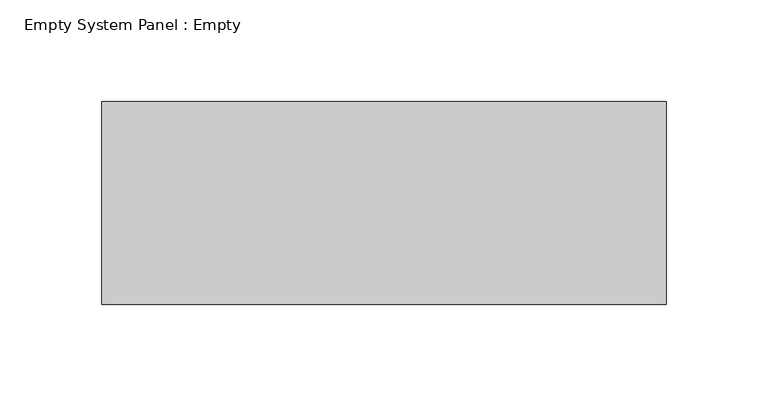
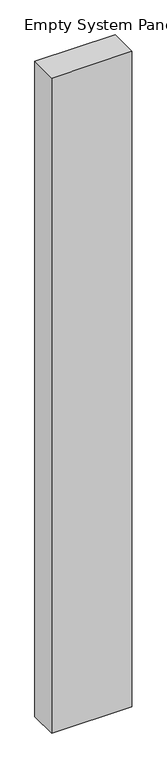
"""IFC4 building model written with IfcOpenShell, lengths in millimetres: plate geometry, Empty System Panel : Empty."""

from ifc_helpers import new_model, si_unit, origin, origin_with_axes, place, context, project, spatial, polyline, outline, extrude, source, transform, mapped, element, save


def empty_system_panel_empty_498bbca3(model_context):
    return source(origin(), model_context, "Body", "SweptSolid", [
        extrude(outline(polyline([(139.0, -50.0), (-139.0, -50.0), (-139.0, 50.0), (139.0, 50.0), (139.0, -50.0)])), origin_with_axes(), (0.0, 0.0, 1.0), 2400.0),
    ])


if __name__ == "__main__":
    model = new_model("IFC4")
    model_context = context("Model", 3, world=origin())
    ifc_project = project(units=[si_unit("LENGTHUNIT", "METRE", prefix="MILLI")], contexts=[model_context])
    site = spatial("IfcSite", under=ifc_project)
    building = spatial("IfcBuilding", under=site)
    placement = place(None, origin())
    empty_system_panel_empty_shape = empty_system_panel_empty_498bbca3(model_context)
    element("IfcPlate", 1, ObjectType="Empty System Panel : Empty", at=placement, inside=building, context=model_context, shape_type="MappedRepresentation", body=[
        mapped(empty_system_panel_empty_shape, transform((0.0, 0.0, 0.0), x_axis=(1.0, 0.0, 0.0), y_axis=(0.0, 1.0, 0.0), z_axis=(0.0, 0.0, 1.0))),
    ])
    save(model, "model.ifc")
